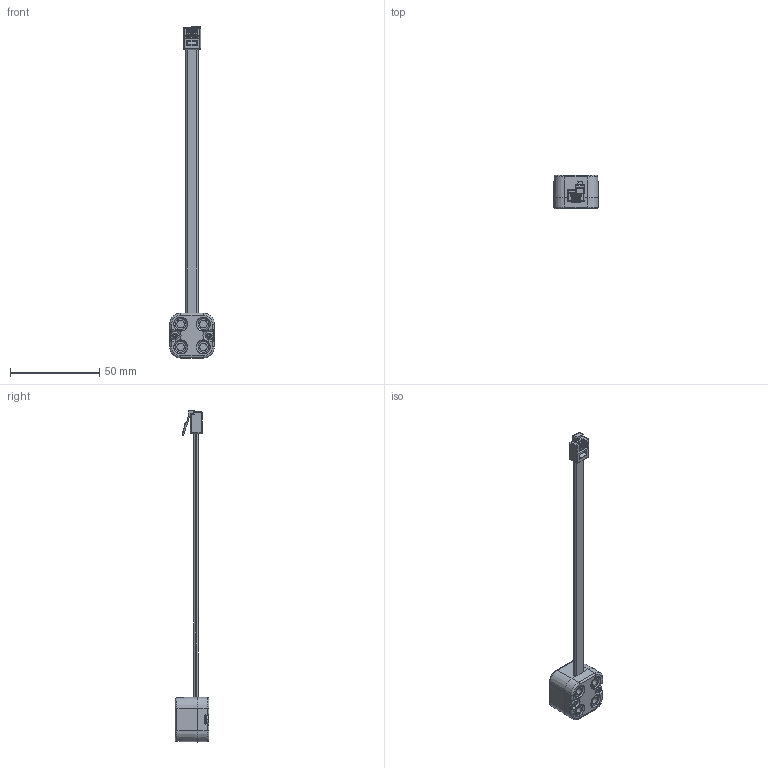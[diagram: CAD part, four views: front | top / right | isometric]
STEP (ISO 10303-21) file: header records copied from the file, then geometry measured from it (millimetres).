
FILE_DESCRIPTION (( 'STEP AP214' ), '1' );
FILE_NAME ('269-6695-000 FOR RELEASE.STEP', '2021-02-19T20:25:32', ( '' ), ( '' ), 'SwSTEP 2.0', 'SolidWorks 2019', '' );
FILE_SCHEMA (( 'AUTOMOTIVE_DESIGN' ));
Length unit declared in the file: millimetre
Products named in the file (1): 269-6695-000 FOR RELEASE
Bounding box: 25.1 x 18.8 x 185.64 mm (x, y, z)
Volume: 13558.8 mm3; surface area: 7127.3 mm2
Topology: 8 solids, 18 shells, 840 faces, 2171 edges, 1364 vertices
Faces by surface type: plane 461, cylinder 184, bspline 104, torus 65, cone 26
Entity records: 36207 total; most frequent: CARTESIAN_POINT 7827, ORIENTED_EDGE 4316, DIRECTION 3598, EDGE_CURVE 2158, VERTEX_POINT 1364, VECTOR 1308, LINE 1308, AXIS2_PLACEMENT_3D 1145
